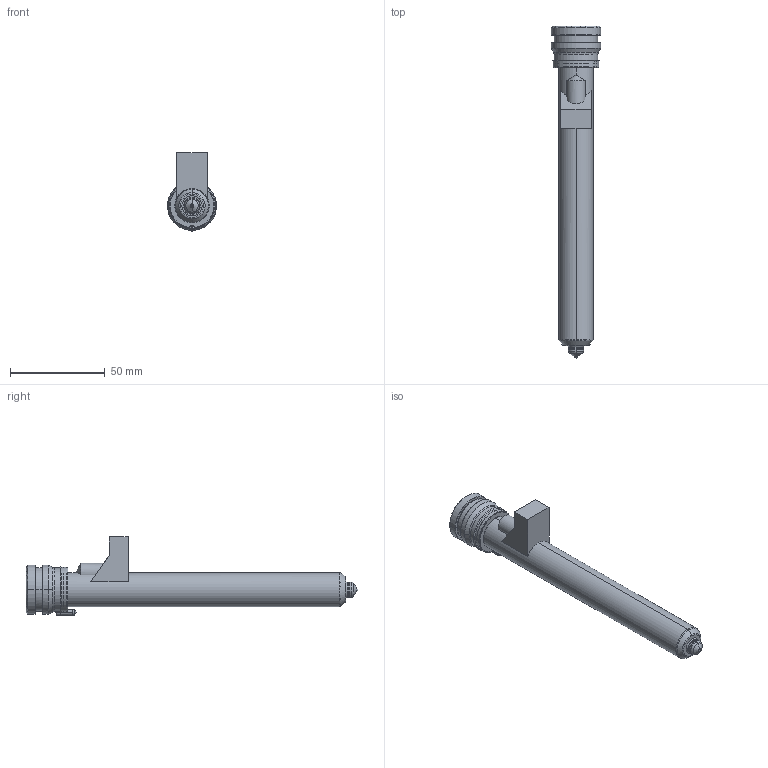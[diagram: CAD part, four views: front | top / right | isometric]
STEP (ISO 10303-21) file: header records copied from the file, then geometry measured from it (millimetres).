
FILE_DESCRIPTION((''),'2;1');
FILE_NAME('MPN-08-24-TX8-156-M','2026-02-05T13:26:40',('UPTIO'),('Thermoplay S.p.A.'),'CREO PARAMETRIC BY PTC INC, 2023494','CREO PARAMETRIC BY PTC INC, 2023494','');
FILE_SCHEMA(('CONFIG_CONTROL_DESIGN','SHAPE_APPEARANCE_LAYERS_GROUPS'));
Length unit declared in the file: millimetre
Products named in the file (1): MPN-08-24-TX8-156-M
Bounding box: 26 x 175.5 x 41.5 mm (x, y, z)
Volume: 33070.7 mm3; surface area: 44085.6 mm2
Topology: 2 solids, 3 shells, 532 faces, 1392 edges, 855 vertices
Faces by surface type: cylinder 174, plane 144, bspline 77, torus 62, cone 58, sphere 11, extrusion 6
Entity records: 28034 total; most frequent: CARTESIAN_POINT 12410, ORIENTED_EDGE 2762, DIRECTION 2491, EDGE_CURVE 1381, AXIS2_PLACEMENT_3D 974, VERTEX_POINT 855, EDGE_LOOP 562, VECTOR 543
